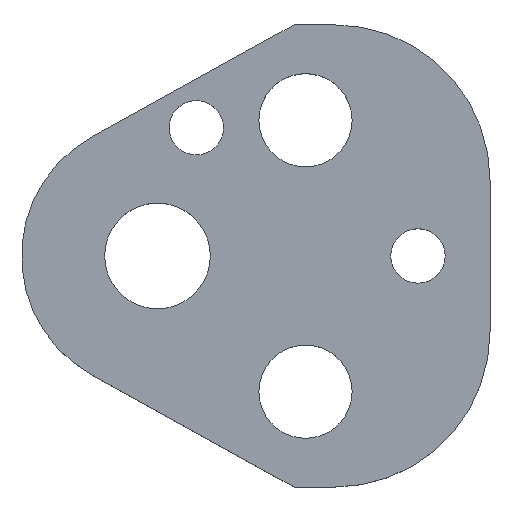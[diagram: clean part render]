
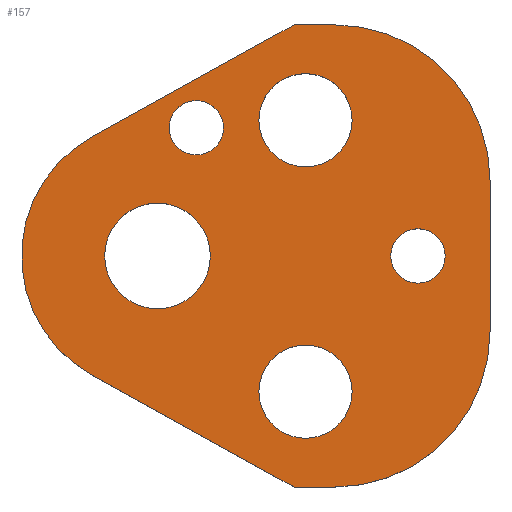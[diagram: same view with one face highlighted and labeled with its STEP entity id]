
A CAD part, top view. The second image highlights one B-rep face of the part: STEP entity #157.
In plain terms, the highlighted planar face has unit normal (0, 0, 1).
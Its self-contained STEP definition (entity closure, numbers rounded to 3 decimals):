
#103=FACE_BOUND('',#207,.T.);
#104=FACE_BOUND('',#208,.T.);
#105=FACE_BOUND('',#209,.T.);
#106=FACE_BOUND('',#210,.T.);
#107=FACE_BOUND('',#211,.T.);
#108=FACE_BOUND('',#212,.T.);
#122=CIRCLE('',#480,20.);
#124=CIRCLE('',#484,20.);
#127=CIRCLE('',#490,17.5);
#138=CIRCLE('',#503,6.);
#139=CIRCLE('',#504,6.);
#140=CIRCLE('',#505,3.5);
#141=CIRCLE('',#506,3.5);
#142=CIRCLE('',#507,6.);
#143=CIRCLE('',#508,6.);
#144=CIRCLE('',#509,3.5);
#145=CIRCLE('',#510,3.5);
#146=CIRCLE('',#511,6.8);
#147=CIRCLE('',#512,6.8);
#157=ADVANCED_FACE('',(#103,#104,#105,#106,#107,#108),#174,.T.);
#174=PLANE('',#513);
#207=EDGE_LOOP('',(#273,#274,#275,#276,#277,#278,#279,#280));
#208=EDGE_LOOP('',(#281,#282));
#209=EDGE_LOOP('',(#283,#284));
#210=EDGE_LOOP('',(#285,#286));
#211=EDGE_LOOP('',(#287,#288));
#212=EDGE_LOOP('',(#289,#290));
#273=ORIENTED_EDGE('',*,*,#368,.T.);
#274=ORIENTED_EDGE('',*,*,#372,.T.);
#275=ORIENTED_EDGE('',*,*,#375,.T.);
#276=ORIENTED_EDGE('',*,*,#378,.T.);
#277=ORIENTED_EDGE('',*,*,#381,.T.);
#278=ORIENTED_EDGE('',*,*,#384,.T.);
#279=ORIENTED_EDGE('',*,*,#387,.T.);
#280=ORIENTED_EDGE('',*,*,#390,.T.);
#281=ORIENTED_EDGE('',*,*,#401,.T.);
#282=ORIENTED_EDGE('',*,*,#402,.T.);
#283=ORIENTED_EDGE('',*,*,#403,.T.);
#284=ORIENTED_EDGE('',*,*,#404,.T.);
#285=ORIENTED_EDGE('',*,*,#405,.T.);
#286=ORIENTED_EDGE('',*,*,#406,.T.);
#287=ORIENTED_EDGE('',*,*,#407,.T.);
#288=ORIENTED_EDGE('',*,*,#408,.T.);
#289=ORIENTED_EDGE('',*,*,#409,.T.);
#290=ORIENTED_EDGE('',*,*,#410,.T.);
#332=VERTEX_POINT('',#649);
#333=VERTEX_POINT('',#651);
#336=VERTEX_POINT('',#658);
#338=VERTEX_POINT('',#664);
#340=VERTEX_POINT('',#670);
#342=VERTEX_POINT('',#676);
#344=VERTEX_POINT('',#682);
#346=VERTEX_POINT('',#688);
#357=VERTEX_POINT('',#717);
#358=VERTEX_POINT('',#718);
#359=VERTEX_POINT('',#721);
#360=VERTEX_POINT('',#722);
#361=VERTEX_POINT('',#725);
#362=VERTEX_POINT('',#726);
#363=VERTEX_POINT('',#729);
#364=VERTEX_POINT('',#730);
#365=VERTEX_POINT('',#733);
#366=VERTEX_POINT('',#734);
#368=EDGE_CURVE('',#333,#332,#422,.T.);
#372=EDGE_CURVE('',#332,#336,#426,.T.);
#375=EDGE_CURVE('',#336,#338,#122,.T.);
#378=EDGE_CURVE('',#338,#340,#430,.T.);
#381=EDGE_CURVE('',#340,#342,#124,.T.);
#384=EDGE_CURVE('',#342,#344,#434,.T.);
#387=EDGE_CURVE('',#344,#346,#437,.T.);
#390=EDGE_CURVE('',#346,#333,#127,.T.);
#401=EDGE_CURVE('',#357,#358,#138,.T.);
#402=EDGE_CURVE('',#358,#357,#139,.T.);
#403=EDGE_CURVE('',#359,#360,#140,.T.);
#404=EDGE_CURVE('',#360,#359,#141,.T.);
#405=EDGE_CURVE('',#361,#362,#142,.T.);
#406=EDGE_CURVE('',#362,#361,#143,.T.);
#407=EDGE_CURVE('',#363,#364,#144,.T.);
#408=EDGE_CURVE('',#364,#363,#145,.T.);
#409=EDGE_CURVE('',#365,#366,#146,.T.);
#410=EDGE_CURVE('',#366,#365,#147,.T.);
#422=LINE('',#650,#450);
#426=LINE('',#659,#454);
#430=LINE('',#671,#458);
#434=LINE('',#683,#462);
#437=LINE('',#689,#465);
#450=VECTOR('',#527,1.);
#454=VECTOR('',#533,1.);
#458=VECTOR('',#545,1.);
#462=VECTOR('',#557,1.);
#465=VECTOR('',#562,1.);
#480=AXIS2_PLACEMENT_3D('',#665,#538,#539);
#484=AXIS2_PLACEMENT_3D('',#677,#550,#551);
#490=AXIS2_PLACEMENT_3D('',#693,#568,#569);
#503=AXIS2_PLACEMENT_3D('',#716,#594,#595);
#504=AXIS2_PLACEMENT_3D('',#719,#596,#597);
#505=AXIS2_PLACEMENT_3D('',#720,#598,#599);
#506=AXIS2_PLACEMENT_3D('',#723,#600,#601);
#507=AXIS2_PLACEMENT_3D('',#724,#602,#603);
#508=AXIS2_PLACEMENT_3D('',#727,#604,#605);
#509=AXIS2_PLACEMENT_3D('',#728,#606,#607);
#510=AXIS2_PLACEMENT_3D('',#731,#608,#609);
#511=AXIS2_PLACEMENT_3D('',#732,#610,#611);
#512=AXIS2_PLACEMENT_3D('',#735,#612,#613);
#513=AXIS2_PLACEMENT_3D('',#736,#614,#615);
#527=DIRECTION('',(0.875,-0.485,0.));
#533=DIRECTION('',(1.,0.,0.));
#538=DIRECTION('',(0.,0.,1.));
#539=DIRECTION('',(-0.707,0.707,0.));
#545=DIRECTION('',(0.,1.,0.));
#550=DIRECTION('',(0.,0.,1.));
#551=DIRECTION('',(-0.707,-0.707,0.));
#557=DIRECTION('',(-1.,0.,0.));
#562=DIRECTION('',(-0.875,-0.485,0.));
#568=DIRECTION('',(0.,0.,1.));
#569=DIRECTION('',(1.,0.,0.));
#594=DIRECTION('',(0.,0.,-1.));
#595=DIRECTION('',(-1.,0.,0.));
#596=DIRECTION('',(0.,0.,-1.));
#597=DIRECTION('',(1.,0.,0.));
#598=DIRECTION('',(0.,0.,-1.));
#599=DIRECTION('',(-1.,0.,0.));
#600=DIRECTION('',(0.,0.,-1.));
#601=DIRECTION('',(1.,0.,0.));
#602=DIRECTION('',(0.,0.,-1.));
#603=DIRECTION('',(-1.,0.,0.));
#604=DIRECTION('',(0.,0.,-1.));
#605=DIRECTION('',(1.,0.,0.));
#606=DIRECTION('',(0.,0.,-1.));
#607=DIRECTION('',(-1.,0.,0.));
#608=DIRECTION('',(0.,0.,-1.));
#609=DIRECTION('',(1.,0.,0.));
#610=DIRECTION('',(0.,0.,-1.));
#611=DIRECTION('',(-1.,0.,0.));
#612=DIRECTION('',(0.,0.,-1.));
#613=DIRECTION('',(1.,0.,0.));
#614=DIRECTION('',(0.,0.,1.));
#615=DIRECTION('',(-0.875,0.485,0.));
#649=CARTESIAN_POINT('',(17.574,-29.75,5.));
#650=CARTESIAN_POINT('',(17.574,-29.75,5.));
#651=CARTESIAN_POINT('',(-8.484,-15.306,5.));
#658=CARTESIAN_POINT('',(22.8,-29.75,5.));
#659=CARTESIAN_POINT('',(17.574,-29.75,5.));
#664=CARTESIAN_POINT('',(42.8,-9.75,5.));
#665=CARTESIAN_POINT('',(22.8,-9.75,5.));
#670=CARTESIAN_POINT('',(42.8,9.75,5.));
#671=CARTESIAN_POINT('',(42.8,9.75,5.));
#676=CARTESIAN_POINT('',(22.8,29.75,5.));
#677=CARTESIAN_POINT('',(22.8,9.75,5.));
#682=CARTESIAN_POINT('',(17.574,29.75,5.));
#683=CARTESIAN_POINT('',(17.574,29.75,5.));
#688=CARTESIAN_POINT('',(-8.484,15.306,5.));
#689=CARTESIAN_POINT('',(17.574,29.75,5.));
#693=CARTESIAN_POINT('',(0.,0.,5.));
#716=CARTESIAN_POINT('',(19.05,-17.47,5.));
#717=CARTESIAN_POINT('',(19.05,-11.47,5.));
#718=CARTESIAN_POINT('',(19.05,-23.47,5.));
#719=CARTESIAN_POINT('',(19.05,-17.47,5.));
#720=CARTESIAN_POINT('',(33.53,0.,5.));
#721=CARTESIAN_POINT('',(33.53,3.5,5.));
#722=CARTESIAN_POINT('',(33.53,-3.5,5.));
#723=CARTESIAN_POINT('',(33.53,0.,5.));
#724=CARTESIAN_POINT('',(19.05,17.47,5.));
#725=CARTESIAN_POINT('',(19.05,23.47,5.));
#726=CARTESIAN_POINT('',(19.05,11.47,5.));
#727=CARTESIAN_POINT('',(19.05,17.47,5.));
#728=CARTESIAN_POINT('',(5.,16.5,5.));
#729=CARTESIAN_POINT('',(5.,20.,5.));
#730=CARTESIAN_POINT('',(5.,13.,5.));
#731=CARTESIAN_POINT('',(5.,16.5,5.));
#732=CARTESIAN_POINT('',(0.,0.,5.));
#733=CARTESIAN_POINT('',(0.,6.8,5.));
#734=CARTESIAN_POINT('',(0.,-6.8,5.));
#735=CARTESIAN_POINT('',(0.,0.,5.));
#736=CARTESIAN_POINT('',(-8.484,-15.306,5.));
